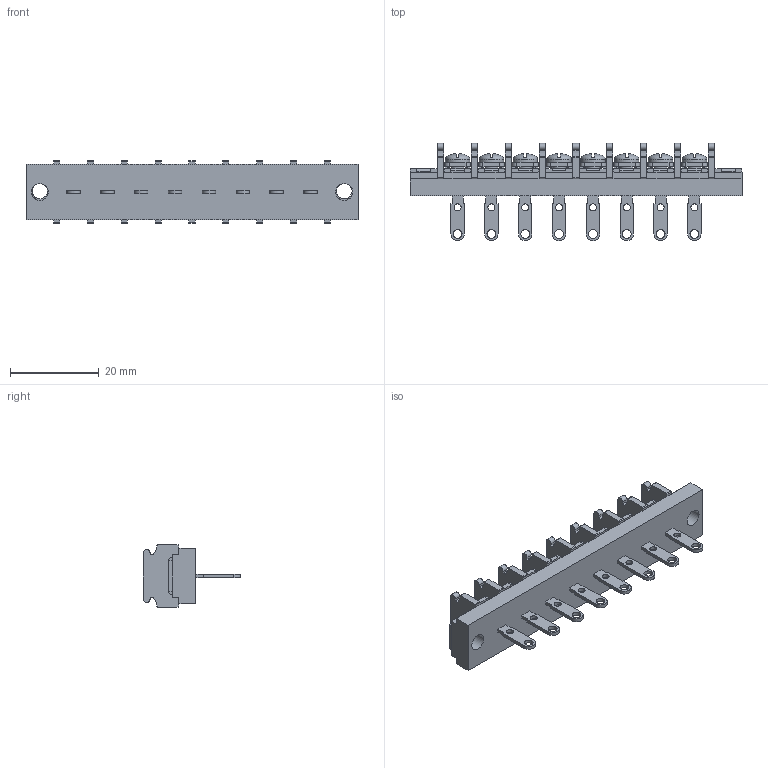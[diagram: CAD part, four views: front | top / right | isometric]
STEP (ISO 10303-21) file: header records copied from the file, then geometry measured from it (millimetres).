
FILE_DESCRIPTION(/* description */ ('Alibre Inc.'),/* implementation_level */ '2;1');
FILE_NAME(/* name */ 'export0',/* time_stamp */ '2015-10-26T16:40:02+09:00',/* author */ (''),/* organization */ (''),/* preprocessor_version */ 'ST-DEVELOPER v14',/* originating_system */ 'Alibre',/* authorisation */ '');
FILE_SCHEMA (('CONFIG_CONTROL_DESIGN'));
Length unit declared in the file: centimetre
Products named in the file (1): ID_1
Bounding box: 74.78 x 21.9 x 14 mm (x, y, z)
Volume: 6769.5 mm3; surface area: 6749.8 mm2
Topology: 1 solids, 17 shells, 1396 faces, 3804 edges, 2496 vertices
Faces by surface type: plane 1078, cylinder 150, bspline 104, cone 32, torus 16, sphere 16
Full cylindrical faces by diameter (mm): 1.57 x8, 2 x8, 3 x8, 3.5 x2, 3.8 x2, 5.5 x8
Entity records: 41681 total; most frequent: CARTESIAN_POINT 8813, ORIENTED_EDGE 7464, DIRECTION 5246, EDGE_CURVE 3732, VECTOR 2724, LINE 2724, VERTEX_POINT 2476, AXIS2_PLACEMENT_3D 1757
